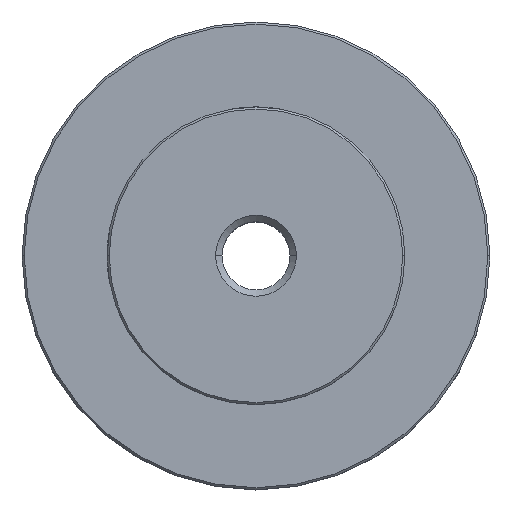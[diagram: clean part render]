
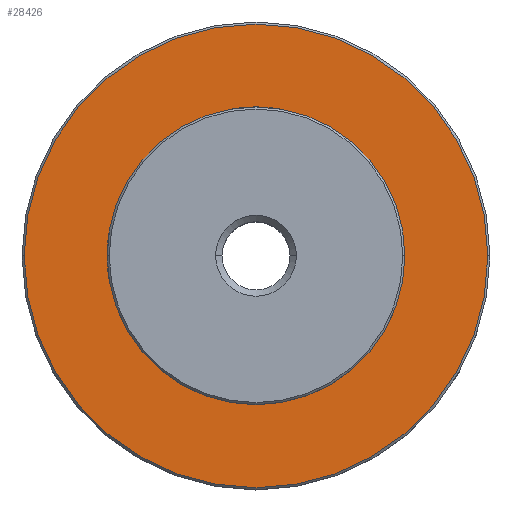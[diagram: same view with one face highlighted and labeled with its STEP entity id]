
A CAD part, top view. The second image highlights one B-rep face of the part: STEP entity #28426.
In plain terms, the highlighted planar face has unit normal (0, 0, 1).
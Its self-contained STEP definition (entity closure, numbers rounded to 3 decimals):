
#537 = DIRECTION ( 'NONE',  ( 1., 0., 0. ) ) ;
#900 = CARTESIAN_POINT ( 'NONE',  ( 17.5, 0., 8.5 ) ) ;
#1473 = CIRCLE ( 'NONE', #18513, 27.25 ) ;
#1831 = PLANE ( 'NONE',  #7039 ) ;
#3348 = EDGE_CURVE ( 'NONE', #4656, #21660, #9023, .T. ) ;
#3584 = ORIENTED_EDGE ( 'NONE', *, *, #3348, .F. ) ;
#3759 = DIRECTION ( 'NONE',  ( 0., 0., 1. ) ) ;
#4656 = VERTEX_POINT ( 'NONE', #8671 ) ;
#6037 = AXIS2_PLACEMENT_3D ( 'NONE', #16309, #18288, #13873 ) ;
#6542 = CIRCLE ( 'NONE', #6037, 27.25 ) ;
#7039 = AXIS2_PLACEMENT_3D ( 'NONE', #27250, #13259, #10673 ) ;
#7415 = EDGE_LOOP ( 'NONE', ( #23177, #23359 ) ) ;
#8671 = CARTESIAN_POINT ( 'NONE',  ( -17.5, 0., 8.5 ) ) ;
#8777 = CIRCLE ( 'NONE', #14083, 17.5 ) ;
#9023 = CIRCLE ( 'NONE', #13908, 17.5 ) ;
#9644 = CARTESIAN_POINT ( 'NONE',  ( -27.25, 0., 8.5 ) ) ;
#10161 = CARTESIAN_POINT ( 'NONE',  ( 0., 0., 8.5 ) ) ;
#10673 = DIRECTION ( 'NONE',  ( 1., 0., 0. ) ) ;
#11840 = DIRECTION ( 'NONE',  ( 0., 0., 1. ) ) ;
#12807 = FACE_BOUND ( 'NONE', #24925, .T. ) ;
#13211 = CARTESIAN_POINT ( 'NONE',  ( 0., 0., 8.5 ) ) ;
#13259 = DIRECTION ( 'NONE',  ( 0., 0., 1. ) ) ;
#13873 = DIRECTION ( 'NONE',  ( 1., 0., 0. ) ) ;
#13908 = AXIS2_PLACEMENT_3D ( 'NONE', #10161, #3759, #26890 ) ;
#14083 = AXIS2_PLACEMENT_3D ( 'NONE', #19293, #11840, #537 ) ;
#15354 = DIRECTION ( 'NONE',  ( 0., 0., 1. ) ) ;
#16215 = VERTEX_POINT ( 'NONE', #22293 ) ;
#16309 = CARTESIAN_POINT ( 'NONE',  ( 0., 0., 8.5 ) ) ;
#16566 = VERTEX_POINT ( 'NONE', #9644 ) ;
#18288 = DIRECTION ( 'NONE',  ( 0., 0., 1. ) ) ;
#18513 = AXIS2_PLACEMENT_3D ( 'NONE', #13211, #15354, #20222 ) ;
#19293 = CARTESIAN_POINT ( 'NONE',  ( 0., 0., 8.5 ) ) ;
#20222 = DIRECTION ( 'NONE',  ( 1., 0., 0. ) ) ;
#21660 = VERTEX_POINT ( 'NONE', #900 ) ;
#22293 = CARTESIAN_POINT ( 'NONE',  ( 27.25, 0., 8.5 ) ) ;
#23177 = ORIENTED_EDGE ( 'NONE', *, *, #28507, .T. ) ;
#23359 = ORIENTED_EDGE ( 'NONE', *, *, #26501, .T. ) ;
#24848 = ORIENTED_EDGE ( 'NONE', *, *, #25228, .F. ) ;
#24925 = EDGE_LOOP ( 'NONE', ( #3584, #24848 ) ) ;
#25228 = EDGE_CURVE ( 'NONE', #21660, #4656, #8777, .T. ) ;
#26501 = EDGE_CURVE ( 'NONE', #16215, #16566, #1473, .T. ) ;
#26890 = DIRECTION ( 'NONE',  ( 1., 0., 0. ) ) ;
#27250 = CARTESIAN_POINT ( 'NONE',  ( 0., 0., 8.5 ) ) ;
#28426 = ADVANCED_FACE ( 'NONE', ( #29541, #12807 ), #1831, .T. ) ;
#28507 = EDGE_CURVE ( 'NONE', #16566, #16215, #6542, .T. ) ;
#29541 = FACE_OUTER_BOUND ( 'NONE', #7415, .T. ) ;
